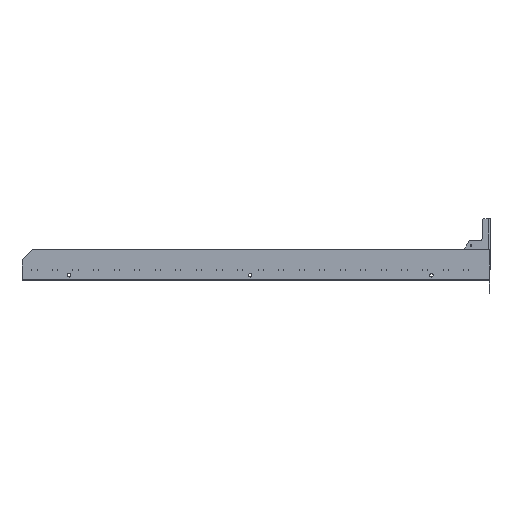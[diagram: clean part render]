
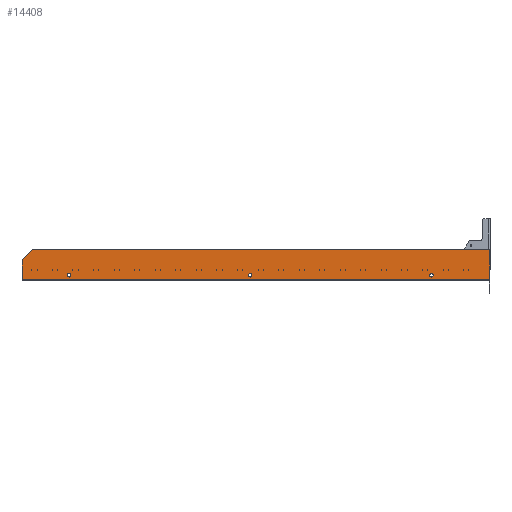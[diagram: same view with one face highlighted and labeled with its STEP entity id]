
A CAD part, left-side view. The second image highlights one B-rep face of the part: STEP entity #14408.
In plain terms, the highlighted planar face has unit normal (-1, 0, 0).
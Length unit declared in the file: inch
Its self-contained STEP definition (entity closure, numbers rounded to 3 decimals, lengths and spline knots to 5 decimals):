
#648 = CARTESIAN_POINT ( 'NONE',  ( 0., 36.3675, 1. ) ) ;
#710 = LINE ( 'NONE', #10352, #17719 ) ;
#750 = DIRECTION ( 'NONE',  ( -1., 0., 0. ) ) ;
#1037 = EDGE_CURVE ( 'NONE', #3146, #5644, #8230, .T. ) ;
#1068 = EDGE_LOOP ( 'NONE', ( #15162, #14040 ) ) ;
#2060 = EDGE_CURVE ( 'NONE', #8776, #20329, #4061, .T. ) ;
#2550 = CARTESIAN_POINT ( 'NONE',  ( 0., 45.525, 0. ) ) ;
#2562 = CARTESIAN_POINT ( 'NONE',  ( 0., -34.1325, 1. ) ) ;
#3146 = VERTEX_POINT ( 'NONE', #18824 ) ;
#3253 = EDGE_CURVE ( 'NONE', #14076, #7825, #5448, .T. ) ;
#3260 = DIRECTION ( 'NONE',  ( -1., 0., 0. ) ) ;
#3666 = VERTEX_POINT ( 'NONE', #21258 ) ;
#3874 = DIRECTION ( 'NONE',  ( 1., 0., 0. ) ) ;
#4061 = CIRCLE ( 'NONE', #22344, 0.336 ) ;
#4729 = EDGE_CURVE ( 'NONE', #20329, #8776, #5013, .T. ) ;
#4916 = CARTESIAN_POINT ( 'NONE',  ( 0., 1.1175, 1. ) ) ;
#5013 = CIRCLE ( 'NONE', #10832, 0.336 ) ;
#5448 = LINE ( 'NONE', #15060, #12829 ) ;
#5591 = PLANE ( 'NONE',  #14583 ) ;
#5644 = VERTEX_POINT ( 'NONE', #13049 ) ;
#6475 = EDGE_CURVE ( 'NONE', #15590, #5644, #16452, .T. ) ;
#6679 = VECTOR ( 'NONE', #23280, 39.37008 ) ;
#6752 = CARTESIAN_POINT ( 'NONE',  ( 0., 1.1175, 1. ) ) ;
#6863 = CARTESIAN_POINT ( 'NONE',  ( 0., 36.3675, 1. ) ) ;
#7244 = ORIENTED_EDGE ( 'NONE', *, *, #6475, .F. ) ;
#7410 = DIRECTION ( 'NONE',  ( 0., 0., -1. ) ) ;
#7417 = VECTOR ( 'NONE', #19923, 39.37008 ) ;
#7825 = VERTEX_POINT ( 'NONE', #15068 ) ;
#7920 = FACE_OUTER_BOUND ( 'NONE', #23929, .T. ) ;
#8033 = CIRCLE ( 'NONE', #22576, 0.336 ) ;
#8230 = LINE ( 'NONE', #23850, #7417 ) ;
#8543 = DIRECTION ( 'NONE',  ( -1., 0., 0. ) ) ;
#8558 = DIRECTION ( 'NONE',  ( 0., 0., 1. ) ) ;
#8776 = VERTEX_POINT ( 'NONE', #16876 ) ;
#9409 = CARTESIAN_POINT ( 'NONE',  ( 0., 45.525, 0.208 ) ) ;
#9488 = CARTESIAN_POINT ( 'NONE',  ( 0., 45.525, 0. ) ) ;
#9768 = CARTESIAN_POINT ( 'NONE',  ( 0., 36.3675, 1.336 ) ) ;
#10195 = EDGE_CURVE ( 'NONE', #3146, #7825, #13897, .T. ) ;
#10233 = ORIENTED_EDGE ( 'NONE', *, *, #10195, .F. ) ;
#10352 = CARTESIAN_POINT ( 'NONE',  ( 0., 45.525, 0.208 ) ) ;
#10405 = CIRCLE ( 'NONE', #17051, 0.336 ) ;
#10505 = CARTESIAN_POINT ( 'NONE',  ( 0., -45.525, 0.208 ) ) ;
#10619 = EDGE_CURVE ( 'NONE', #17746, #16806, #25350, .T. ) ;
#10642 = DIRECTION ( 'NONE',  ( -1., 0., 0. ) ) ;
#10791 = CARTESIAN_POINT ( 'NONE',  ( 0., 36.3675, 0.664 ) ) ;
#10832 = AXIS2_PLACEMENT_3D ( 'NONE', #6752, #20654, #21043 ) ;
#11082 = DIRECTION ( 'NONE',  ( 0., 0., 1. ) ) ;
#11575 = FACE_BOUND ( 'NONE', #17007, .T. ) ;
#12829 = VECTOR ( 'NONE', #13507, 39.37008 ) ;
#12876 = AXIS2_PLACEMENT_3D ( 'NONE', #6863, #10642, #18558 ) ;
#13023 = ORIENTED_EDGE ( 'NONE', *, *, #3253, .T. ) ;
#13049 = CARTESIAN_POINT ( 'NONE',  ( 0., 45.525, 4. ) ) ;
#13137 = ORIENTED_EDGE ( 'NONE', *, *, #10619, .F. ) ;
#13315 = ORIENTED_EDGE ( 'NONE', *, *, #24079, .T. ) ;
#13507 = DIRECTION ( 'NONE',  ( 0., 0., 1. ) ) ;
#13897 = LINE ( 'NONE', #19737, #6679 ) ;
#13966 = EDGE_CURVE ( 'NONE', #19478, #3666, #10405, .T. ) ;
#14040 = ORIENTED_EDGE ( 'NONE', *, *, #13966, .F. ) ;
#14076 = VERTEX_POINT ( 'NONE', #10505 ) ;
#14241 = DIRECTION ( 'NONE',  ( 0., -1., 0. ) ) ;
#14266 = DIRECTION ( 'NONE',  ( 0., 0., 1. ) ) ;
#14408 = ADVANCED_FACE ( 'NONE', ( #23535, #25619, #11575, #7920 ), #5591, .F. ) ;
#14583 = AXIS2_PLACEMENT_3D ( 'NONE', #9488, #3874, #7410 ) ;
#15060 = CARTESIAN_POINT ( 'NONE',  ( 0., -45.525, 0. ) ) ;
#15068 = CARTESIAN_POINT ( 'NONE',  ( 0., -45.525, 6. ) ) ;
#15162 = ORIENTED_EDGE ( 'NONE', *, *, #17613, .F. ) ;
#15590 = VERTEX_POINT ( 'NONE', #9409 ) ;
#16350 = CIRCLE ( 'NONE', #22158, 0.336 ) ;
#16452 = LINE ( 'NONE', #2550, #24380 ) ;
#16556 = ORIENTED_EDGE ( 'NONE', *, *, #4729, .F. ) ;
#16806 = VERTEX_POINT ( 'NONE', #10791 ) ;
#16876 = CARTESIAN_POINT ( 'NONE',  ( 0., 1.1175, 1.336 ) ) ;
#17007 = EDGE_LOOP ( 'NONE', ( #18312, #16556 ) ) ;
#17051 = AXIS2_PLACEMENT_3D ( 'NONE', #2562, #8543, #14266 ) ;
#17516 = ORIENTED_EDGE ( 'NONE', *, *, #1037, .T. ) ;
#17613 = EDGE_CURVE ( 'NONE', #3666, #19478, #8033, .T. ) ;
#17719 = VECTOR ( 'NONE', #14241, 39.37008 ) ;
#17746 = VERTEX_POINT ( 'NONE', #9768 ) ;
#18312 = ORIENTED_EDGE ( 'NONE', *, *, #2060, .F. ) ;
#18558 = DIRECTION ( 'NONE',  ( 0., 0., 1. ) ) ;
#18715 = DIRECTION ( 'NONE',  ( 0., 0., 1. ) ) ;
#18824 = CARTESIAN_POINT ( 'NONE',  ( 0., 43.525, 6. ) ) ;
#18869 = CARTESIAN_POINT ( 'NONE',  ( 0., -34.1325, 1. ) ) ;
#19478 = VERTEX_POINT ( 'NONE', #23806 ) ;
#19737 = CARTESIAN_POINT ( 'NONE',  ( 0., 45.525, 6. ) ) ;
#19923 = DIRECTION ( 'NONE',  ( 0., 0.707, -0.707 ) ) ;
#20177 = EDGE_LOOP ( 'NONE', ( #13137, #25300 ) ) ;
#20329 = VERTEX_POINT ( 'NONE', #21521 ) ;
#20654 = DIRECTION ( 'NONE',  ( -1., 0., 0. ) ) ;
#20658 = DIRECTION ( 'NONE',  ( -1., 0., 0. ) ) ;
#20932 = EDGE_CURVE ( 'NONE', #16806, #17746, #16350, .T. ) ;
#21043 = DIRECTION ( 'NONE',  ( 0., 0., 1. ) ) ;
#21258 = CARTESIAN_POINT ( 'NONE',  ( 0., -34.1325, 1.336 ) ) ;
#21521 = CARTESIAN_POINT ( 'NONE',  ( 0., 1.1175, 0.664 ) ) ;
#22158 = AXIS2_PLACEMENT_3D ( 'NONE', #648, #20658, #18715 ) ;
#22344 = AXIS2_PLACEMENT_3D ( 'NONE', #4916, #750, #8558 ) ;
#22576 = AXIS2_PLACEMENT_3D ( 'NONE', #18869, #3260, #11082 ) ;
#23280 = DIRECTION ( 'NONE',  ( 0., -1., 0. ) ) ;
#23535 = FACE_BOUND ( 'NONE', #20177, .T. ) ;
#23806 = CARTESIAN_POINT ( 'NONE',  ( 0., -34.1325, 0.664 ) ) ;
#23850 = CARTESIAN_POINT ( 'NONE',  ( 0., 43.525, 6. ) ) ;
#23929 = EDGE_LOOP ( 'NONE', ( #10233, #17516, #7244, #13315, #13023 ) ) ;
#24079 = EDGE_CURVE ( 'NONE', #15590, #14076, #710, .T. ) ;
#24380 = VECTOR ( 'NONE', #24399, 39.37008 ) ;
#24399 = DIRECTION ( 'NONE',  ( 0., 0., 1. ) ) ;
#25300 = ORIENTED_EDGE ( 'NONE', *, *, #20932, .F. ) ;
#25350 = CIRCLE ( 'NONE', #12876, 0.336 ) ;
#25619 = FACE_BOUND ( 'NONE', #1068, .T. ) ;
